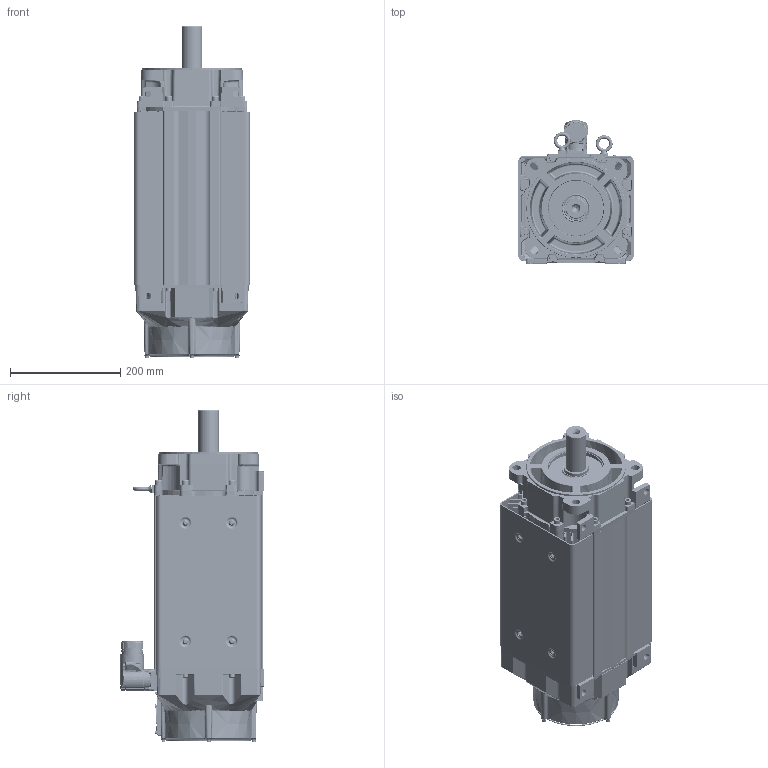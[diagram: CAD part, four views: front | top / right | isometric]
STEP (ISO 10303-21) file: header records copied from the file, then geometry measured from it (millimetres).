
FILE_DESCRIPTION((''),'2;1');
FILE_NAME('VPC-B2155D-QK12FX_ASM','2016-09-27T',('SRGaddam'),('Rockwell Automation'),'PRO/ENGINEER BY PARAMETRIC TECHNOLOGY CORPORATION, 2012480','PRO/ENGINEER BY PARAMETRIC TECHNOLOGY CORPORATION, 2012480','');
FILE_SCHEMA(('CONFIG_CONTROL_DESIGN'));
Products named in the file (41): 10001238886_AF0; 10001298482_AF22; 10001284445_ASM; CH31X150; 10001371549; 10000569218; 10001416319; 10001587021; 10001257630_AF285; 10001300098_AF257; 10001314835_ASM; 10001289764; 10002069468; 10001935397; 10001713570; 10001713572_ASM; 91290A150BR; 10001289776; CH4X050; 10001587458; 91290A115; 10001336508; 10001409703; 10001299929; 10001284567; 10001518963; 91290A148BR; 10001587431; 91290A139BR; 10000231113; 10001289808_ASM; 10001609981; 0002-5005; 10001586886; 10001369859_KEYLESS; 142408_740; PRT0002_740; 142408-1_740_ASM; 221404-Q12; M740_ASM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
Assembly tree (79 placements, depth 4):
  VPC-B2155D-QK12FX_ASM
    10001284445_ASM
      10001238886_AF0
      10001298482_AF22
    CH31X150  x8
    10001371549
    10000569218
    10001416319  x2
    10001587021  x8
    10001314835_ASM
      10001257630_AF285
      10001300098_AF257
    10001289808_ASM
      10001289764
      10002069468
      10001713572_ASM
        10001935397
        10001713570
      91290A150BR  x4
      10001289776
      CH4X050  x2
      10001587458
      91290A115  x5
      10001336508
      10001409703
      10001299929
      10001284567
      10001518963
      91290A148BR  x8
      10001587431
      91290A139BR
      10000231113
    10001609981
    0002-5005  x2
    10001586886  x6
    10001369859_KEYLESS
    M740_ASM
      142408-1_740_ASM
        142408_740
        PRT0002_740
      221404-Q12  x4
Bounding box: 210.91 x 260.15 x 601.11 mm (x, y, z)
Volume: 5875067 mm3; surface area: 1848284.5 mm2
Topology: 82 solids, 82 shells, 6595 faces, 15763 edges, 9602 vertices
Faces by surface type: plane 1966, cylinder 1766, bspline 1265, cone 832, torus 596, sphere 135, revolution 30, extrusion 5
Entity records: 231443 total; most frequent: CARTESIAN_POINT 109082, ORIENTED_EDGE 26598, DIRECTION 23649, EDGE_CURVE 13299, AXIS2_PLACEMENT_3D 9300, VERTEX_POINT 8186, EDGE_LOOP 5993, FACE_OUTER_BOUND 5503
